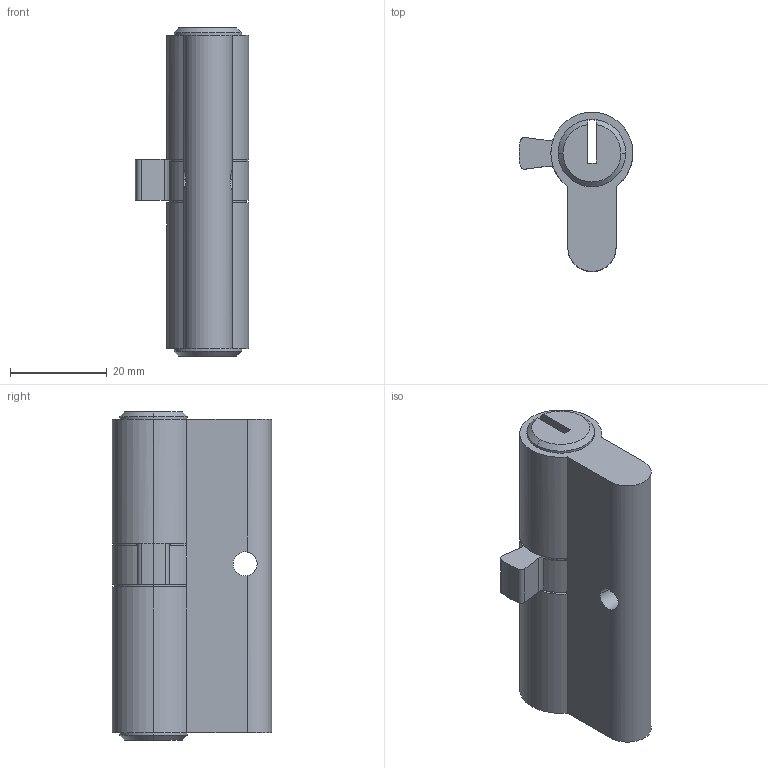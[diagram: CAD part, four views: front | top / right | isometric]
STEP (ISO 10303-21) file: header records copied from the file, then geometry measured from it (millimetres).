
FILE_DESCRIPTION (( 'STEP AP214' ), '1' );
FILE_NAME ('TPL-H-EU-516-R 29Oct2024.STEP', '2024-10-29T22:23:25', ( '' ), ( '' ), 'SwSTEP 2.0', 'SolidWorks 2023', '' );
FILE_SCHEMA (( 'AUTOMOTIVE_DESIGN' ));
Length unit declared in the file: millimetre
Products named in the file (1): TPL-H-EU-516-R 29Oct2024
Bounding box: 23.6 x 33 x 68 mm (x, y, z)
Volume: 24231.6 mm3; surface area: 8106 mm2
Topology: 1 solids, 1 shells, 52 faces, 144 edges, 90 vertices
Faces by surface type: cylinder 30, plane 16, cone 6
Entity records: 1775 total; most frequent: CARTESIAN_POINT 363, DIRECTION 314, ORIENTED_EDGE 288, EDGE_CURVE 144, AXIS2_PLACEMENT_3D 125, VERTEX_POINT 90, CIRCLE 72, VECTOR 64
